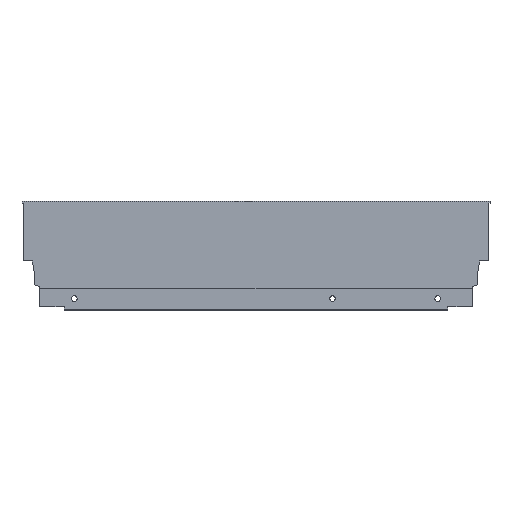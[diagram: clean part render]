
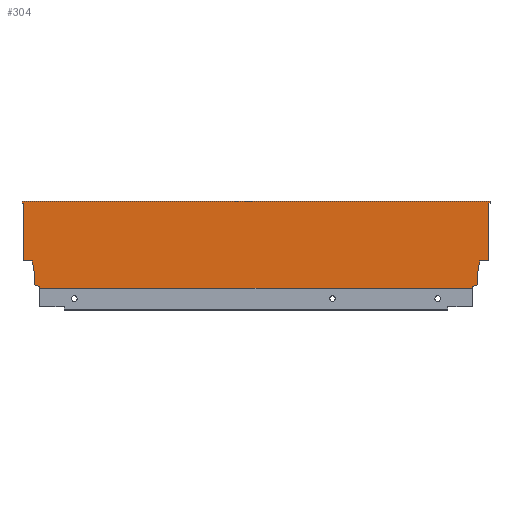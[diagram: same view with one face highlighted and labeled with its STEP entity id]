
A CAD part, top view. The second image highlights one B-rep face of the part: STEP entity #304.
In plain terms, the highlighted planar face has unit normal (0, 0, 1).
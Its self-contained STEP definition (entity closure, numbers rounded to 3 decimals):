
#129 = EDGE_CURVE ( 'NONE', #698, #670, #458, .T. ) ;
#183 = EDGE_CURVE ( 'NONE', #666, #709, #345, .T. ) ;
#184 = EDGE_CURVE ( 'NONE', #664, #663, #343, .T. ) ;
#185 = EDGE_CURVE ( 'NONE', #709, #698, #341, .T. ) ;
#186 = EDGE_CURVE ( 'NONE', #663, #659, #339, .T. ) ;
#187 = EDGE_CURVE ( 'NONE', #670, #654, #337, .T. ) ;
#188 = EDGE_CURVE ( 'NONE', #648, #646, #335, .T. ) ;
#189 = EDGE_CURVE ( 'NONE', #654, #656, #333, .T. ) ;
#190 = EDGE_CURVE ( 'NONE', #689, #678, #331, .T. ) ;
#191 = EDGE_CURVE ( 'NONE', #656, #664, #329, .T. ) ;
#192 = EDGE_CURVE ( 'NONE', #657, #666, #327, .T. ) ;
#193 = EDGE_CURVE ( 'NONE', #646, #689, #379, .T. ) ;
#194 = EDGE_CURVE ( 'NONE', #675, #665, #401, .T. ) ;
#195 = EDGE_CURVE ( 'NONE', #661, #665, #1040, .T. ) ;
#196 = EDGE_CURVE ( 'NONE', #653, #661, #352, .T. ) ;
#197 = EDGE_CURVE ( 'NONE', #653, #657, #1036, .T. ) ;
#198 = EDGE_CURVE ( 'NONE', #648, #659, #1034, .T. ) ;
#201 = EDGE_CURVE ( 'NONE', #678, #675, #402, .T. ) ;
#247 = AXIS2_PLACEMENT_3D ( 'NONE', #1482, #1488, #1489 ) ;
#304 = ADVANCED_FACE ( 'NONE', ( #984 ), #1465, .T. ) ;
#325 = VECTOR ( 'NONE', #1337, 1000. ) ;
#326 = VECTOR ( 'NONE', #1335, 1000. ) ;
#327 = LINE ( 'NONE', #1334, #326 ) ;
#328 = VECTOR ( 'NONE', #1333, 1000. ) ;
#329 = LINE ( 'NONE', #1332, #328 ) ;
#330 = VECTOR ( 'NONE', #1331, 1000. ) ;
#331 = LINE ( 'NONE', #1330, #330 ) ;
#332 = VECTOR ( 'NONE', #1329, 1000. ) ;
#333 = LINE ( 'NONE', #1328, #332 ) ;
#334 = VECTOR ( 'NONE', #1327, 1000. ) ;
#335 = LINE ( 'NONE', #1326, #334 ) ;
#336 = VECTOR ( 'NONE', #1325, 1000. ) ;
#337 = LINE ( 'NONE', #1324, #336 ) ;
#338 = VECTOR ( 'NONE', #1323, 1000. ) ;
#339 = LINE ( 'NONE', #1322, #338 ) ;
#340 = VECTOR ( 'NONE', #1321, 1000. ) ;
#341 = LINE ( 'NONE', #1320, #340 ) ;
#342 = VECTOR ( 'NONE', #1319, 1000. ) ;
#343 = LINE ( 'NONE', #1318, #342 ) ;
#344 = VECTOR ( 'NONE', #1317, 1000. ) ;
#345 = LINE ( 'NONE', #1316, #344 ) ;
#350 = VECTOR ( 'NONE', #1355, 1000. ) ;
#352 = LINE ( 'NONE', #1336, #1038 ) ;
#379 = LINE ( 'NONE', #1310, #325 ) ;
#401 = LINE ( 'NONE', #1338, #1030 ) ;
#402 = LINE ( 'NONE', #1354, #350 ) ;
#458 = LINE ( 'NONE', #1191, #471 ) ;
#471 = VECTOR ( 'NONE', #1204, 1000. ) ;
#557 = EDGE_LOOP ( 'NONE', ( #756, #759, #795, #787, #830, #769, #771, #748, #794, #738, #811, #844, #784, #767, #843, #902, #919, #815 ) ) ;
#646 = VERTEX_POINT ( 'NONE', #1571 ) ;
#648 = VERTEX_POINT ( 'NONE', #1572 ) ;
#653 = VERTEX_POINT ( 'NONE', #1576 ) ;
#654 = VERTEX_POINT ( 'NONE', #1577 ) ;
#656 = VERTEX_POINT ( 'NONE', #1579 ) ;
#657 = VERTEX_POINT ( 'NONE', #1580 ) ;
#659 = VERTEX_POINT ( 'NONE', #1582 ) ;
#661 = VERTEX_POINT ( 'NONE', #1584 ) ;
#663 = VERTEX_POINT ( 'NONE', #1586 ) ;
#664 = VERTEX_POINT ( 'NONE', #1587 ) ;
#665 = VERTEX_POINT ( 'NONE', #1588 ) ;
#666 = VERTEX_POINT ( 'NONE', #1589 ) ;
#670 = VERTEX_POINT ( 'NONE', #1593 ) ;
#675 = VERTEX_POINT ( 'NONE', #1598 ) ;
#678 = VERTEX_POINT ( 'NONE', #1601 ) ;
#689 = VERTEX_POINT ( 'NONE', #1612 ) ;
#698 = VERTEX_POINT ( 'NONE', #1621 ) ;
#709 = VERTEX_POINT ( 'NONE', #1630 ) ;
#738 = ORIENTED_EDGE ( 'NONE', *, *, #198, .T. ) ;
#748 = ORIENTED_EDGE ( 'NONE', *, *, #193, .F. ) ;
#756 = ORIENTED_EDGE ( 'NONE', *, *, #192, .F. ) ;
#759 = ORIENTED_EDGE ( 'NONE', *, *, #197, .F. ) ;
#767 = ORIENTED_EDGE ( 'NONE', *, *, #189, .F. ) ;
#769 = ORIENTED_EDGE ( 'NONE', *, *, #201, .F. ) ;
#771 = ORIENTED_EDGE ( 'NONE', *, *, #190, .F. ) ;
#784 = ORIENTED_EDGE ( 'NONE', *, *, #191, .F. ) ;
#787 = ORIENTED_EDGE ( 'NONE', *, *, #195, .T. ) ;
#794 = ORIENTED_EDGE ( 'NONE', *, *, #188, .F. ) ;
#795 = ORIENTED_EDGE ( 'NONE', *, *, #196, .T. ) ;
#811 = ORIENTED_EDGE ( 'NONE', *, *, #186, .F. ) ;
#815 = ORIENTED_EDGE ( 'NONE', *, *, #183, .F. ) ;
#830 = ORIENTED_EDGE ( 'NONE', *, *, #194, .F. ) ;
#843 = ORIENTED_EDGE ( 'NONE', *, *, #187, .F. ) ;
#844 = ORIENTED_EDGE ( 'NONE', *, *, #184, .F. ) ;
#902 = ORIENTED_EDGE ( 'NONE', *, *, #129, .F. ) ;
#919 = ORIENTED_EDGE ( 'NONE', *, *, #185, .F. ) ;
#984 = FACE_OUTER_BOUND ( 'NONE', #557, .T. ) ;
#1030 = VECTOR ( 'NONE', #1339, 1000. ) ;
#1033 = VECTOR ( 'NONE', #1348, 1000. ) ;
#1034 = LINE ( 'NONE', #1347, #1033 ) ;
#1035 = VECTOR ( 'NONE', #1346, 1000. ) ;
#1036 = LINE ( 'NONE', #1345, #1035 ) ;
#1038 = VECTOR ( 'NONE', #1344, 1000. ) ;
#1039 = VECTOR ( 'NONE', #1342, 1000. ) ;
#1040 = LINE ( 'NONE', #1341, #1039 ) ;
#1191 = CARTESIAN_POINT ( 'NONE',  ( 0., 0., 7.5 ) ) ;
#1204 = DIRECTION ( 'NONE',  ( 0., -1., 0. ) ) ;
#1310 = CARTESIAN_POINT ( 'NONE',  ( -356.1, 2.64, 7.5 ) ) ;
#1316 = CARTESIAN_POINT ( 'NONE',  ( 1., 68., 7.5 ) ) ;
#1317 = DIRECTION ( 'NONE',  ( 0., -1., 0. ) ) ;
#1318 = CARTESIAN_POINT ( 'NONE',  ( -8.9, 2.64, 7.5 ) ) ;
#1319 = DIRECTION ( 'NONE',  ( -0.94, -0.342, 0. ) ) ;
#1320 = CARTESIAN_POINT ( 'NONE',  ( 1., 66.5, 7.5 ) ) ;
#1321 = DIRECTION ( 'NONE',  ( -1., 0., 0. ) ) ;
#1322 = CARTESIAN_POINT ( 'NONE',  ( -13.004, 1.146, 7.5 ) ) ;
#1323 = DIRECTION ( 'NONE',  ( 0., -1., 0. ) ) ;
#1324 = CARTESIAN_POINT ( 'NONE',  ( 0., 21.2, 7.5 ) ) ;
#1325 = DIRECTION ( 'NONE',  ( -1., 0., 0. ) ) ;
#1326 = CARTESIAN_POINT ( 'NONE',  ( -351.996, 1.146, 7.5 ) ) ;
#1327 = DIRECTION ( 'NONE',  ( 0., 1., 0. ) ) ;
#1328 = CARTESIAN_POINT ( 'NONE',  ( -7.06, 21.2, 7.5 ) ) ;
#1329 = DIRECTION ( 'NONE',  ( -0.174, -0.985, 0. ) ) ;
#1330 = CARTESIAN_POINT ( 'NONE',  ( -356.1, 10.765, 7.5 ) ) ;
#1331 = DIRECTION ( 'NONE',  ( 0., 1., 0. ) ) ;
#1332 = CARTESIAN_POINT ( 'NONE',  ( -8.9, 10.765, 7.5 ) ) ;
#1333 = DIRECTION ( 'NONE',  ( 0., -1., 0. ) ) ;
#1334 = CARTESIAN_POINT ( 'NONE',  ( -365., 68., 7.5 ) ) ;
#1335 = DIRECTION ( 'NONE',  ( 1., 0., 0. ) ) ;
#1336 = CARTESIAN_POINT ( 'NONE',  ( -366., 66.5, 7.5 ) ) ;
#1337 = DIRECTION ( 'NONE',  ( -0.94, 0.342, 0. ) ) ;
#1338 = CARTESIAN_POINT ( 'NONE',  ( -370., 21.2, 7.5 ) ) ;
#1339 = DIRECTION ( 'NONE',  ( -1., 0., 0. ) ) ;
#1341 = CARTESIAN_POINT ( 'NONE',  ( -365., 0., 7.5 ) ) ;
#1342 = DIRECTION ( 'NONE',  ( 0., -1., 0. ) ) ;
#1344 = DIRECTION ( 'NONE',  ( 1., 0., 0. ) ) ;
#1345 = CARTESIAN_POINT ( 'NONE',  ( -366., 66.5, 7.5 ) ) ;
#1346 = DIRECTION ( 'NONE',  ( 0., 1., 0. ) ) ;
#1347 = CARTESIAN_POINT ( 'NONE',  ( -365., 0., 7.5 ) ) ;
#1348 = DIRECTION ( 'NONE',  ( 1., 0., 0. ) ) ;
#1354 = CARTESIAN_POINT ( 'NONE',  ( -357.94, 21.2, 7.5 ) ) ;
#1355 = DIRECTION ( 'NONE',  ( -0.174, 0.985, 0. ) ) ;
#1465 = PLANE ( 'NONE',  #247 ) ;
#1482 = CARTESIAN_POINT ( 'NONE',  ( -365., 0., 7.5 ) ) ;
#1488 = DIRECTION ( 'NONE',  ( 0., 0., 1. ) ) ;
#1489 = DIRECTION ( 'NONE',  ( 1., 0., 0. ) ) ;
#1571 = CARTESIAN_POINT ( 'NONE',  ( -351.996, 1.146, 7.5 ) ) ;
#1572 = CARTESIAN_POINT ( 'NONE',  ( -351.996, 0., 7.5 ) ) ;
#1576 = CARTESIAN_POINT ( 'NONE',  ( -366., 66.5, 7.5 ) ) ;
#1577 = CARTESIAN_POINT ( 'NONE',  ( -7.06, 21.2, 7.5 ) ) ;
#1579 = CARTESIAN_POINT ( 'NONE',  ( -8.9, 10.765, 7.5 ) ) ;
#1580 = CARTESIAN_POINT ( 'NONE',  ( -366., 68., 7.5 ) ) ;
#1582 = CARTESIAN_POINT ( 'NONE',  ( -13.004, 0., 7.5 ) ) ;
#1584 = CARTESIAN_POINT ( 'NONE',  ( -365., 66.5, 7.5 ) ) ;
#1586 = CARTESIAN_POINT ( 'NONE',  ( -13.004, 1.146, 7.5 ) ) ;
#1587 = CARTESIAN_POINT ( 'NONE',  ( -8.9, 2.64, 7.5 ) ) ;
#1588 = CARTESIAN_POINT ( 'NONE',  ( -365., 21.2, 7.5 ) ) ;
#1589 = CARTESIAN_POINT ( 'NONE',  ( 1., 68., 7.5 ) ) ;
#1593 = CARTESIAN_POINT ( 'NONE',  ( 0., 21.2, 7.5 ) ) ;
#1598 = CARTESIAN_POINT ( 'NONE',  ( -357.94, 21.2, 7.5 ) ) ;
#1601 = CARTESIAN_POINT ( 'NONE',  ( -356.1, 10.765, 7.5 ) ) ;
#1612 = CARTESIAN_POINT ( 'NONE',  ( -356.1, 2.64, 7.5 ) ) ;
#1621 = CARTESIAN_POINT ( 'NONE',  ( 0., 66.5, 7.5 ) ) ;
#1630 = CARTESIAN_POINT ( 'NONE',  ( 1., 66.5, 7.5 ) ) ;
